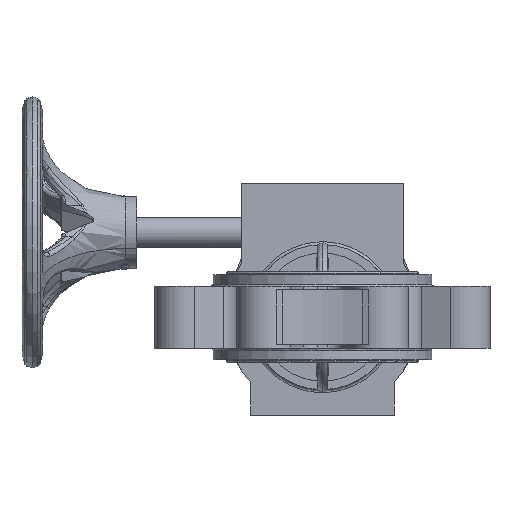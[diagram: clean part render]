
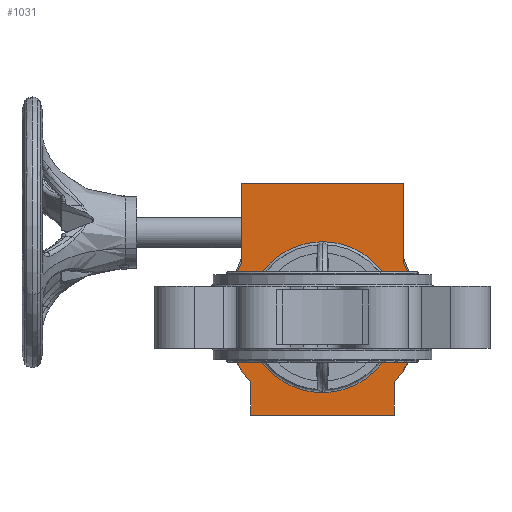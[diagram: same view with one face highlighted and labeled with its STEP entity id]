
A CAD part, front view. The second image highlights one B-rep face of the part: STEP entity #1031.
In plain terms, the highlighted planar face has unit normal (0, -1, 0).
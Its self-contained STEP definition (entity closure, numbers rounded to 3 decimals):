
#1031 = ADVANCED_FACE ( 'NONE', ( #25577, #17755 ), #9882, .F. ) ;
#2488 = CARTESIAN_POINT ( 'NONE',  ( -79.24, 168., 40. ) ) ;
#3392 = LINE ( 'NONE', #39251, #8925 ) ;
#4935 = CARTESIAN_POINT ( 'NONE',  ( 0.383, 168., 39.998 ) ) ;
#7359 = LINE ( 'NONE', #85192, #77772 ) ;
#8925 = VECTOR ( 'NONE', #68650, 1000. ) ;
#9201 = VECTOR ( 'NONE', #85603, 1000. ) ;
#9386 = CARTESIAN_POINT ( 'NONE',  ( 0., 168., 0. ) ) ;
#9498 = CARTESIAN_POINT ( 'NONE',  ( -0.383, 168., -39.998 ) ) ;
#9882 = PLANE ( 'NONE',  #89352 ) ;
#11571 = CARTESIAN_POINT ( 'NONE',  ( 79.619, 168., 39.239 ) ) ;
#11591 = EDGE_CURVE ( 'NONE', #51503, #33386, #86553, .T. ) ;
#11783 = CARTESIAN_POINT ( 'NONE',  ( 0., 168., -40. ) ) ;
#13775 = ORIENTED_EDGE ( 'NONE', *, *, #11591, .F. ) ;
#16721 = VERTEX_POINT ( 'NONE', #87504 ) ;
#17623 = VERTEX_POINT ( 'NONE', #65092 ) ;
#17755 = FACE_OUTER_BOUND ( 'NONE', #18153, .T. ) ;
#18153 = EDGE_LOOP ( 'NONE', ( #87678, #59148, #78441, #13775, #70457, #40677, #85748, #61041 ) ) ;
#18823 = CARTESIAN_POINT ( 'NONE',  ( 0., 168., -40. ) ) ;
#20535 = EDGE_CURVE ( 'NONE', #38033, #80121, #35422, .T. ) ;
#24974 = VERTEX_POINT ( 'NONE', #56413 ) ;
#25097 = CARTESIAN_POINT ( 'NONE',  ( 0., 168., 40. ) ) ;
#25426 = ORIENTED_EDGE ( 'NONE', *, *, #35515, .F. ) ;
#25495 = AXIS2_PLACEMENT_3D ( 'NONE', #53764, #74841, #30727 ) ;
#25577 = FACE_BOUND ( 'NONE', #47832, .T. ) ;
#28426 = EDGE_CURVE ( 'NONE', #17623, #51503, #85530, .T. ) ;
#30727 = DIRECTION ( 'NONE',  ( 0., 0., -1. ) ) ;
#31024 = EDGE_CURVE ( 'NONE', #93913, #17623, #76276, .T. ) ;
#32184 = EDGE_CURVE ( 'NONE', #92874, #88374, #65485, .T. ) ;
#32236 = DIRECTION ( 'NONE',  ( 0., 0., 1. ) ) ;
#32680 = CARTESIAN_POINT ( 'NONE',  ( 0., 168., 40. ) ) ;
#33035 = CARTESIAN_POINT ( 'NONE',  ( -0.383, 168., -39.998 ) ) ;
#33386 = VERTEX_POINT ( 'NONE', #64984 ) ;
#33450 = ORIENTED_EDGE ( 'NONE', *, *, #32184, .F. ) ;
#34615 = CARTESIAN_POINT ( 'NONE',  ( 0.383, 168., 39.998 ) ) ;
#35422 =( BOUNDED_CURVE ( )  B_SPLINE_CURVE ( 3, ( #25097, #2488, #46663, #62826 ),
 .UNSPECIFIED., .F., .T. ) 
 B_SPLINE_CURVE_WITH_KNOTS ( ( 4, 4 ),
 ( 0., 0.997 ),
 .UNSPECIFIED. ) 
 CURVE ( )  GEOMETRIC_REPRESENTATION_ITEM ( )  RATIONAL_B_SPLINE_CURVE ( ( 1., 0.337, 0.337, 1. ) ) 
 REPRESENTATION_ITEM ( '' )  );
#35515 = EDGE_CURVE ( 'NONE', #80121, #92874, #75470, .T. ) ;
#36190 = EDGE_CURVE ( 'NONE', #42434, #93913, #3392, .T. ) ;
#38033 = VERTEX_POINT ( 'NONE', #32680 ) ;
#38245 = CARTESIAN_POINT ( 'NONE',  ( 0.256, 168., 39.999 ) ) ;
#39251 = CARTESIAN_POINT ( 'NONE',  ( 0., 168., 71. ) ) ;
#39888 = CARTESIAN_POINT ( 'NONE',  ( -43., 168., 71. ) ) ;
#39987 = DIRECTION ( 'NONE',  ( 0., 0., 1. ) ) ;
#40677 = ORIENTED_EDGE ( 'NONE', *, *, #31024, .F. ) ;
#40836 = LINE ( 'NONE', #48202, #54593 ) ;
#40954 = CARTESIAN_POINT ( 'NONE',  ( 38., 168., 0. ) ) ;
#41617 = CARTESIAN_POINT ( 'NONE',  ( 0., 168., 40. ) ) ;
#42434 = VERTEX_POINT ( 'NONE', #39888 ) ;
#43615 = CARTESIAN_POINT ( 'NONE',  ( -43., 168., 28.342 ) ) ;
#46350 = CARTESIAN_POINT ( 'NONE',  ( -38., 168., 0. ) ) ;
#46663 = CARTESIAN_POINT ( 'NONE',  ( -79.619, 168., -39.239 ) ) ;
#47356 = EDGE_CURVE ( 'NONE', #33386, #16721, #40836, .T. ) ;
#47832 = EDGE_LOOP ( 'NONE', ( #33450, #25426, #58518, #56932 ) ) ;
#48202 = CARTESIAN_POINT ( 'NONE',  ( 0., 168., -52. ) ) ;
#48999 = CARTESIAN_POINT ( 'NONE',  ( 0.128, 168., 40. ) ) ;
#51503 = VERTEX_POINT ( 'NONE', #72037 ) ;
#52948 = CARTESIAN_POINT ( 'NONE',  ( 0.383, 168., 39.998 ) ) ;
#53070 = EDGE_CURVE ( 'NONE', #24974, #60538, #85052, .T. ) ;
#53764 = CARTESIAN_POINT ( 'NONE',  ( 0., 168., 0. ) ) ;
#54193 = LINE ( 'NONE', #46350, #91095 ) ;
#54593 = VECTOR ( 'NONE', #78111, 1000. ) ;
#55201 = CARTESIAN_POINT ( 'NONE',  ( 43., 168., 71. ) ) ;
#55330 = CARTESIAN_POINT ( 'NONE',  ( 0., 168., 0. ) ) ;
#56163 = CARTESIAN_POINT ( 'NONE',  ( 0., 168., -40. ) ) ;
#56413 = CARTESIAN_POINT ( 'NONE',  ( -38., 168., -34.76 ) ) ;
#56932 = ORIENTED_EDGE ( 'NONE', *, *, #77434, .F. ) ;
#57042 = EDGE_CURVE ( 'NONE', #60538, #42434, #7359, .T. ) ;
#57599 = VECTOR ( 'NONE', #70847, 1000. ) ;
#58518 = ORIENTED_EDGE ( 'NONE', *, *, #20535, .F. ) ;
#59148 = ORIENTED_EDGE ( 'NONE', *, *, #75673, .F. ) ;
#60538 = VERTEX_POINT ( 'NONE', #43615 ) ;
#61041 = ORIENTED_EDGE ( 'NONE', *, *, #57042, .F. ) ;
#61946 = CARTESIAN_POINT ( 'NONE',  ( -0.128, 168., -40. ) ) ;
#62678 = DIRECTION ( 'NONE',  ( 0., 1., 0. ) ) ;
#62826 = CARTESIAN_POINT ( 'NONE',  ( -0.383, 168., -39.998 ) ) ;
#63527 = CARTESIAN_POINT ( 'NONE',  ( 79.24, 168., -40. ) ) ;
#64984 = CARTESIAN_POINT ( 'NONE',  ( 38., 168., -52. ) ) ;
#65092 = CARTESIAN_POINT ( 'NONE',  ( 43., 168., 28.342 ) ) ;
#65485 =( BOUNDED_CURVE ( )  B_SPLINE_CURVE ( 3, ( #56163, #63527, #11571, #34615 ),
 .UNSPECIFIED., .F., .T. ) 
 B_SPLINE_CURVE_WITH_KNOTS ( ( 4, 4 ),
 ( 0., 0.997 ),
 .UNSPECIFIED. ) 
 CURVE ( )  GEOMETRIC_REPRESENTATION_ITEM ( )  RATIONAL_B_SPLINE_CURVE ( ( 1., 0.337, 0.337, 1. ) ) 
 REPRESENTATION_ITEM ( '' )  );
#67641 =( BOUNDED_CURVE ( )  B_SPLINE_CURVE ( 3, ( #52948, #38245, #48999, #41617 ),
 .UNSPECIFIED., .F., .F. ) 
 B_SPLINE_CURVE_WITH_KNOTS ( ( 4, 4 ),
 ( 0.997, 1. ),
 .UNSPECIFIED. ) 
 CURVE ( )  GEOMETRIC_REPRESENTATION_ITEM ( )  RATIONAL_B_SPLINE_CURVE ( ( 1., 1., 1., 1. ) ) 
 REPRESENTATION_ITEM ( '' )  );
#68208 = AXIS2_PLACEMENT_3D ( 'NONE', #55330, #62678, #76907 ) ;
#68650 = DIRECTION ( 'NONE',  ( 1., 0., 0. ) ) ;
#69187 = DIRECTION ( 'NONE',  ( 0., 1., 0. ) ) ;
#70457 = ORIENTED_EDGE ( 'NONE', *, *, #28426, .F. ) ;
#70847 = DIRECTION ( 'NONE',  ( 0., 0., -1. ) ) ;
#72037 = CARTESIAN_POINT ( 'NONE',  ( 38., 168., -34.76 ) ) ;
#74841 = DIRECTION ( 'NONE',  ( 0., 1., 0. ) ) ;
#75470 =( BOUNDED_CURVE ( )  B_SPLINE_CURVE ( 3, ( #33035, #85029, #61946, #18823 ),
 .UNSPECIFIED., .F., .T. ) 
 B_SPLINE_CURVE_WITH_KNOTS ( ( 4, 4 ),
 ( 0.997, 1. ),
 .UNSPECIFIED. ) 
 CURVE ( )  GEOMETRIC_REPRESENTATION_ITEM ( )  RATIONAL_B_SPLINE_CURVE ( ( 1., 1., 1., 1. ) ) 
 REPRESENTATION_ITEM ( '' )  );
#75673 = EDGE_CURVE ( 'NONE', #16721, #24974, #54193, .T. ) ;
#76276 = LINE ( 'NONE', #92524, #9201 ) ;
#76907 = DIRECTION ( 'NONE',  ( 0., 0., 1. ) ) ;
#77434 = EDGE_CURVE ( 'NONE', #88374, #38033, #67641, .T. ) ;
#77772 = VECTOR ( 'NONE', #32236, 1000. ) ;
#78111 = DIRECTION ( 'NONE',  ( -1., 0., 0. ) ) ;
#78441 = ORIENTED_EDGE ( 'NONE', *, *, #47356, .F. ) ;
#80121 = VERTEX_POINT ( 'NONE', #9498 ) ;
#85029 = CARTESIAN_POINT ( 'NONE',  ( -0.256, 168., -39.999 ) ) ;
#85052 = CIRCLE ( 'NONE', #25495, 51.5 ) ;
#85192 = CARTESIAN_POINT ( 'NONE',  ( -43., 168., 0. ) ) ;
#85530 = CIRCLE ( 'NONE', #68208, 51.5 ) ;
#85603 = DIRECTION ( 'NONE',  ( 0., 0., -1. ) ) ;
#85748 = ORIENTED_EDGE ( 'NONE', *, *, #36190, .F. ) ;
#86553 = LINE ( 'NONE', #40954, #57599 ) ;
#87504 = CARTESIAN_POINT ( 'NONE',  ( -38., 168., -52. ) ) ;
#87678 = ORIENTED_EDGE ( 'NONE', *, *, #53070, .F. ) ;
#88374 = VERTEX_POINT ( 'NONE', #4935 ) ;
#89352 = AXIS2_PLACEMENT_3D ( 'NONE', #9386, #69187, #92309 ) ;
#91095 = VECTOR ( 'NONE', #39987, 1000. ) ;
#92309 = DIRECTION ( 'NONE',  ( 0., 0., -1. ) ) ;
#92524 = CARTESIAN_POINT ( 'NONE',  ( 43., 168., 0. ) ) ;
#92874 = VERTEX_POINT ( 'NONE', #11783 ) ;
#93913 = VERTEX_POINT ( 'NONE', #55201 ) ;
